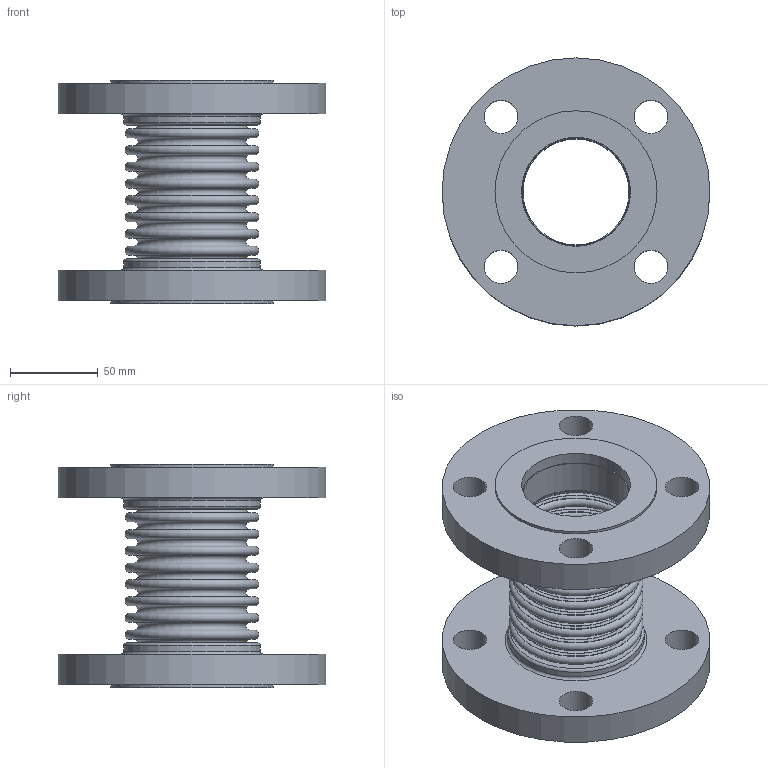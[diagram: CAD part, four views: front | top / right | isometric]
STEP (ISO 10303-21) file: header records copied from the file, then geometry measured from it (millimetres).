
FILE_DESCRIPTION(/* description */ ('EXPANSION JOINT,SINGLE, FLANGED ENDS,2 INCH NOMINAL','CAx-IF Rec.Pracs.---Representation and Presentation of Product Manufacturing Information (PMI)---4.0---2014-10-13'),/* implementation_level */ '2;1');
FILE_NAME(/* name */ 'US-02-8-85S-FLANGED ENDS.stp',/* time_stamp */ '2026-07-31T18:05:40-05:00',/* author */ ('Guadalupe'),/* organization */ (''),/* preprocessor_version */ 'ST-DEVELOPER v20.1',/* originating_system */ 'Autodesk Inventor 2026',/* authorisation */ '');
FILE_SCHEMA (('AP242_MANAGED_MODEL_BASED_3D_ENGINEERING_MIM_LF { 1 0 10303 442 2 1 4 }'));
Length unit declared in the file: inch
Products named in the file (3): 02-85S; 02-85S-02; 02-85S-01
Assembly tree (3 placements, depth 2):
  02-85S
    02-85S-02  x2
    02-85S-01
Bounding box: 152.4 x 152.4 x 127 mm (x, y, z)
Volume: 546124.8 mm3; surface area: 179810.9 mm2
Topology: 5 solids, 5 shells, 104 faces, 174 edges, 116 vertices
Faces by surface type: plane 46, torus 38, cylinder 20
Full cylindrical faces by diameter (mm): 19.05 x8, 60.325 x2, 61.239 x2, 61.976 x2, 77.724 x2, 92.202 x2, 152.4 x2
Entity records: 2402 total; most frequent: DIRECTION 494, CARTESIAN_POINT 353, ORIENTED_EDGE 288, AXIS2_PLACEMENT_3D 241, EDGE_CURVE 144, EDGE_LOOP 140, CIRCLE 132, VERTEX_POINT 96
